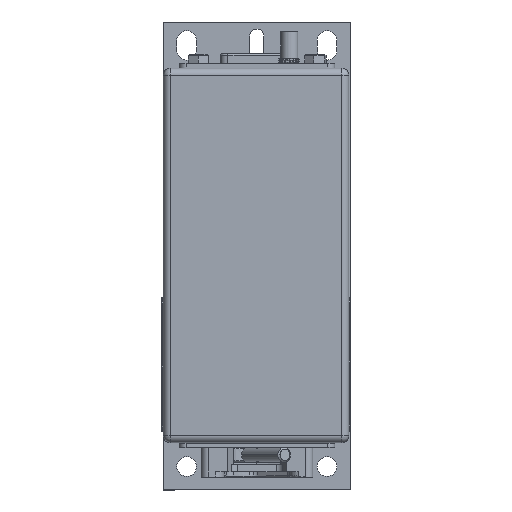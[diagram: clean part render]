
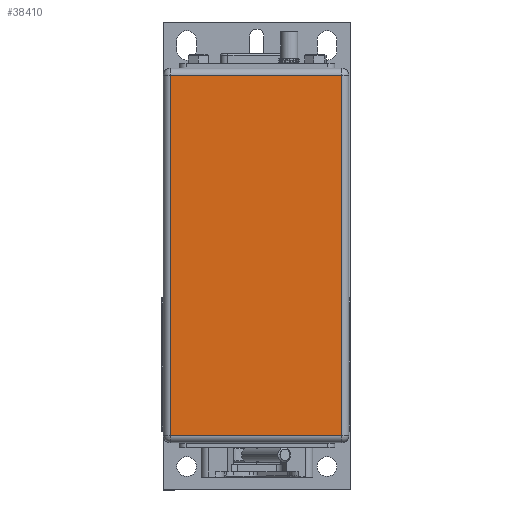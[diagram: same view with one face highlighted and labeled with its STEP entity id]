
A CAD part, top view. The second image highlights one B-rep face of the part: STEP entity #38410.
In plain terms, the highlighted planar face has unit normal (0, 0, 1).
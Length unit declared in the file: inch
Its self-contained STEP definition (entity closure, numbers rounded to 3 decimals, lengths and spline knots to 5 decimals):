
#27015 = EDGE_LOOP ( 'NONE', ( #33919, #33920, #33922, #33924 ) ) ;
#33919 = ORIENTED_EDGE ( 'NONE', *, *, #83994, .T. ) ;
#33920 = ORIENTED_EDGE ( 'NONE', *, *, #84075, .T. ) ;
#33922 = ORIENTED_EDGE ( 'NONE', *, *, #84084, .T. ) ;
#33924 = ORIENTED_EDGE ( 'NONE', *, *, #84060, .T. ) ;
#36873 = CARTESIAN_POINT ( 'NONE',  ( 0.35858, -1.28692, 1.46788 ) ) ;
#36879 = CARTESIAN_POINT ( 'NONE',  ( 0.35858, 1.74308, 1.46788 ) ) ;
#36883 = CARTESIAN_POINT ( 'NONE',  ( -1.08142, 1.74308, 1.46788 ) ) ;
#37017 = CARTESIAN_POINT ( 'NONE',  ( -1.08142, -1.28692, 1.46788 ) ) ;
#38410 = ADVANCED_FACE ( 'NONE', ( #63146 ), #71510, .F. ) ;
#61599 = CARTESIAN_POINT ( 'NONE',  ( 0.35858, 1.80308, 1.46788 ) ) ;
#61601 = DIRECTION ( 'NONE',  ( 0., 1., 0. ) ) ;
#63146 = FACE_OUTER_BOUND ( 'NONE', #27015, .T. ) ;
#71497 = CARTESIAN_POINT ( 'NONE',  ( -1.14142, 1.80308, 1.46788 ) ) ;
#71510 = PLANE ( 'NONE',  #80489 ) ;
#71523 = DIRECTION ( 'NONE',  ( 0., 0., -1. ) ) ;
#71524 = DIRECTION ( 'NONE',  ( -1., 0., 0. ) ) ;
#75580 = VERTEX_POINT ( 'NONE', #36873 ) ;
#75587 = VERTEX_POINT ( 'NONE', #36879 ) ;
#75592 = VERTEX_POINT ( 'NONE', #36883 ) ;
#75768 = VERTEX_POINT ( 'NONE', #37017 ) ;
#75832 = LINE ( 'NONE', #61599, #75842 ) ;
#75842 = VECTOR ( 'NONE', #61601, 39.37008 ) ;
#75952 = LINE ( 'NONE', #77691, #75953 ) ;
#75953 = VECTOR ( 'NONE', #77693, 39.37008 ) ;
#75975 = LINE ( 'NONE', #77769, #75976 ) ;
#75976 = VECTOR ( 'NONE', #77771, 39.37008 ) ;
#75992 = LINE ( 'NONE', #77812, #75993 ) ;
#75993 = VECTOR ( 'NONE', #77813, 39.37008 ) ;
#77691 = CARTESIAN_POINT ( 'NONE',  ( 0.41858, -1.28692, 1.46788 ) ) ;
#77693 = DIRECTION ( 'NONE',  ( 1., 0., 0. ) ) ;
#77769 = CARTESIAN_POINT ( 'NONE',  ( -1.14142, 1.74308, 1.46788 ) ) ;
#77771 = DIRECTION ( 'NONE',  ( -1., 0., 0. ) ) ;
#77812 = CARTESIAN_POINT ( 'NONE',  ( -1.08142, 1.80308, 1.46788 ) ) ;
#77813 = DIRECTION ( 'NONE',  ( 0., -1., 0. ) ) ;
#80489 = AXIS2_PLACEMENT_3D ( 'NONE', #71497, #71523, #71524 ) ;
#83994 = EDGE_CURVE ( 'NONE', #75580, #75587, #75832, .T. ) ;
#84060 = EDGE_CURVE ( 'NONE', #75768, #75580, #75952, .T. ) ;
#84075 = EDGE_CURVE ( 'NONE', #75587, #75592, #75975, .T. ) ;
#84084 = EDGE_CURVE ( 'NONE', #75592, #75768, #75992, .T. ) ;
